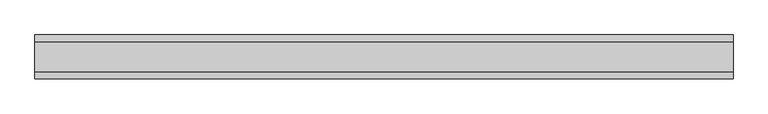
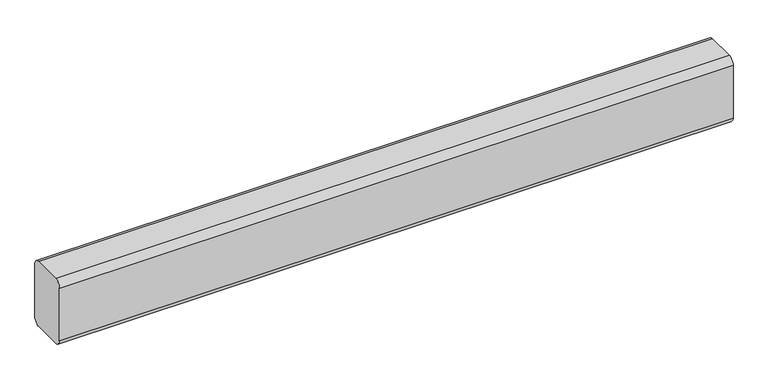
"""IFC4 building model written with IfcOpenShell, lengths in millimetres: proxy geometry, GROUTED CMU CELLS_horizontal : GROUTED CMU CELLS_horizontal."""

from ifc_helpers import new_model, si_unit, point, frame, frame_2d, origin, place, context, project, spatial, polyline, circle_curve, trimmed, segment, composite_curve, outline, extrude, source, transform, mapped, element, save


def generic_models_87b86ae9(model_context):
    return source(origin(), model_context, "Body", "SweptSolid", [
        extrude(outline(composite_curve([segment(trimmed(circle_curve(frame_2d((34.925, -66.675)), 15.875), [point((50.8, -66.675))], [point((34.925, -82.55))], False, "CARTESIAN"), True, "CONTINUOUS"), segment(polyline([(34.925, -82.55), (-34.925, -82.55)]), True, "CONTINUOUS"), segment(trimmed(circle_curve(frame_2d((-34.925, -66.675)), 15.875), [point((-34.925, -82.55))], [point((-50.8, -66.675))], False, "CARTESIAN"), True, "CONTINUOUS"), segment(polyline([(-50.8, -66.675), (-50.8, 66.675)]), True, "CONTINUOUS"), segment(trimmed(circle_curve(frame_2d((-34.925, 66.675)), 15.875), [point((-50.8, 66.675))], [point((-34.925, 82.55))], False, "CARTESIAN"), True, "CONTINUOUS"), segment(polyline([(-34.925, 82.55), (34.925, 82.55)]), True, "CONTINUOUS"), segment(trimmed(circle_curve(frame_2d((34.925, 66.675)), 15.875), [point((34.925, 82.55))], [point((50.8, 66.675))], False, "CARTESIAN"), True, "CONTINUOUS"), segment(polyline([(50.8, 66.675), (50.8, -66.675)]), True, "CONTINUOUS")], self_intersect=False)), frame((0.0, 0.0, 0.0), z_axis=(1.0, 0.0, 0.0), x_axis=(0.0, 1.0, 0.0)), (0.0, 0.0, 1.0), 1615.8713652),
    ])


if __name__ == "__main__":
    model = new_model("IFC4")
    model_context = context("Model", 3, world=origin())
    ifc_project = project(units=[si_unit("LENGTHUNIT", "METRE", prefix="MILLI")], contexts=[model_context])
    site = spatial("IfcSite", under=ifc_project)
    building = spatial("IfcBuilding", under=site)
    placement = place(None, origin())
    generic_models_shape = generic_models_87b86ae9(model_context)
    element("IfcBuildingElementProxy", 1, Name="GROUTED CMU CELLS_horizontal : GROUTED CMU CELLS_horizontal", ObjectType="GROUTED CMU CELLS_horizontal : GROUTED CMU CELLS_horizontal", at=placement, inside=building, context=model_context, shape_type="MappedRepresentation", body=[
        mapped(generic_models_shape, transform((0.0, 0.0, 0.0), x_axis=(1.0, 0.0, 0.0), y_axis=(0.0, 1.0, 0.0), z_axis=(0.0, 0.0, 1.0))),
    ])
    save(model, "model.ifc")
